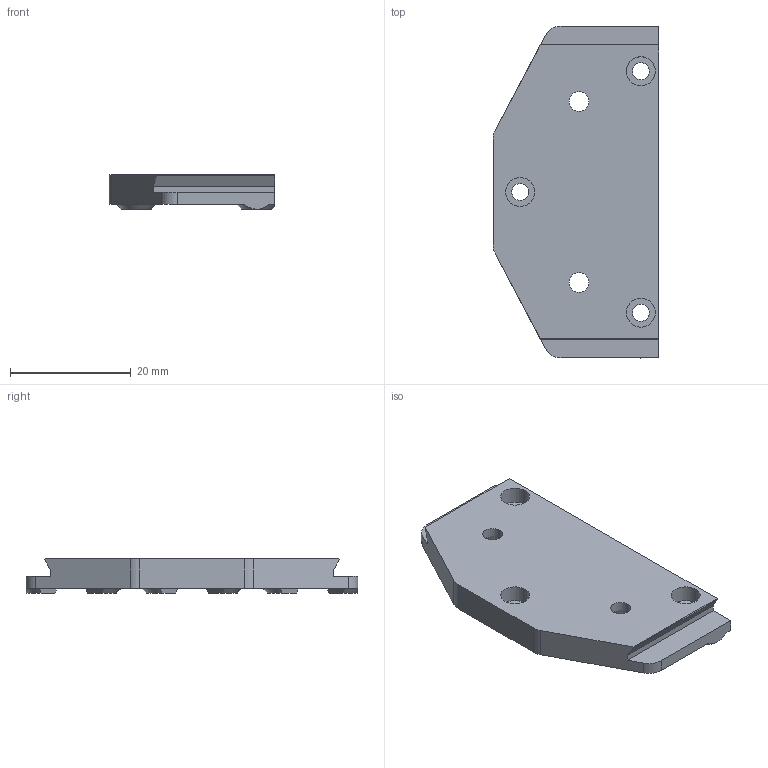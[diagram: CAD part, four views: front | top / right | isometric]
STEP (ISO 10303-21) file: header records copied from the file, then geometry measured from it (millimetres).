
FILE_DESCRIPTION(/* description */ ('STEP AP242','CAx-IF Rec.Pracs.---Representation and Presentation of Product Manufacturing Information (PMI)---4.0---2014-10-13','CAx-IF Rec.Pracs.---3D Tessellated Geometry---0.4---2014-09-14','2;1'),/* implementation_level */ '2;1');
FILE_NAME(/* name */ '62b45d91ccf67d5dda75cb70',/* time_stamp */ '2022-06-23T12:33:23+00:00',/* author */ (''),/* organization */ (''),/* preprocessor_version */ 'ST-DEVELOPER v18.102',/* originating_system */ ' ',/* authorisation */ ' ');
FILE_SCHEMA (('AP242_MANAGED_MODEL_BASED_3D_ENGINEERING_MIM_LF { 1 0 10303 442 1 1 4 }'));
Length unit declared in the file: metre
Products named in the file (1): Skadis Mounting Plate Left
Bounding box: 27.5 x 55 x 5.7 mm (x, y, z)
Volume: 5854.9 mm3; surface area: 3751 mm2
Topology: 1 solids, 1 shells, 85 faces, 217 edges, 141 vertices
Faces by surface type: plane 65, cylinder 12, cone 8
Full cylindrical faces by diameter (mm): 2.8 x3, 3.3 x2, 4.8 x3
Entity records: 2532 total; most frequent: CARTESIAN_POINT 472, ORIENTED_EDGE 412, DIRECTION 404, EDGE_CURVE 206, LINE 152, VECTOR 152, VERTEX_POINT 138, AXIS2_PLACEMENT_3D 126
